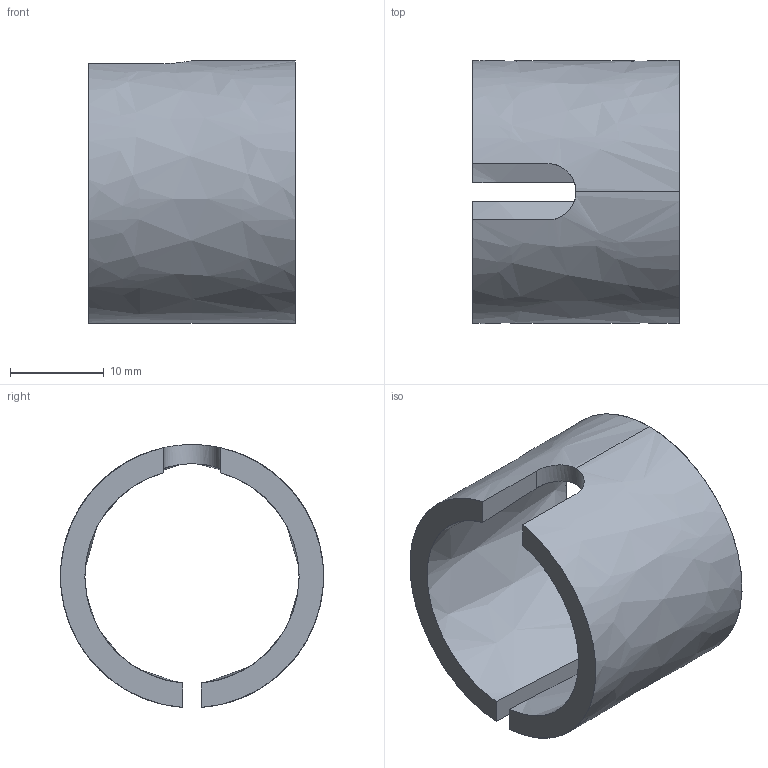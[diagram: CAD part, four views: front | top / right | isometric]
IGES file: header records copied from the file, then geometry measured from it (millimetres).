
Start section: Comment
Global section: file name: JF6H42_Sleeve.igs; native system:  By Spatial Corp.; preprocessor: XPlus GENERIC/IGES 3.0; author: Author; organization: Title; date: 20080526.100749; units: millimetre
Bounding box: 22 x 28 x 27.96 mm (x, y, z)
Surface area: 3834 mm2 (no closed solid volume)
Topology: 0 solids, 0 shells, 11 faces, 64 edges, 64 vertices
Faces by surface type: bspline 11
